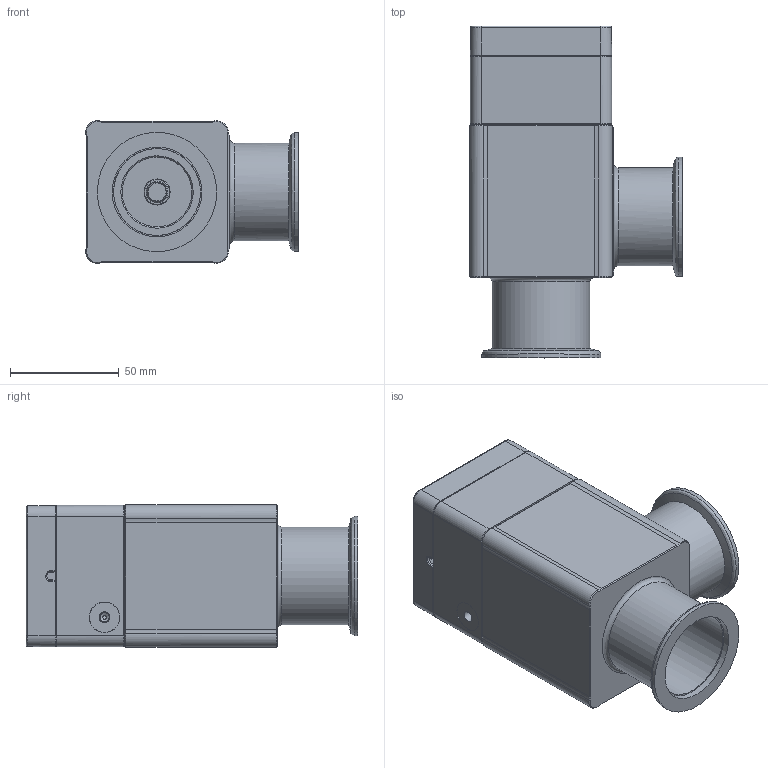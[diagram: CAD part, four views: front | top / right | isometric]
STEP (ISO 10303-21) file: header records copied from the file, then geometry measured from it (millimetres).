
FILE_DESCRIPTION((''),'2;1');
FILE_NAME('C:\TEMP\IDEAS\240330.stp','2006-09-19T15:54:29',('User'),( 'SDRC'),'I-DEAS Master Series 9','UNIX','Yes');
FILE_SCHEMA(('CONFIG_CONTROL_DESIGN'));
Length unit declared in the file: millimetre
Assembly tree (10 placements, depth 0):
Bounding box: 97.8 x 152.7 x 65.6 mm (x, y, z)
Volume: 232138.5 mm3; surface area: 110943.9 mm2
Topology: 18 solids, 18 shells, 538 faces, 1317 edges, 842 vertices
Faces by surface type: bspline 538
Entity records: 16281 total; most frequent: CARTESIAN_POINT 8394, ORIENTED_EDGE 2318, EDGE_CURVE 1159, VERTEX_POINT 743, EDGE_LOOP 516, B_SPLINE_CURVE_WITH_KNOTS 480, FACE_OUTER_BOUND 463, ADVANCED_FACE 463
